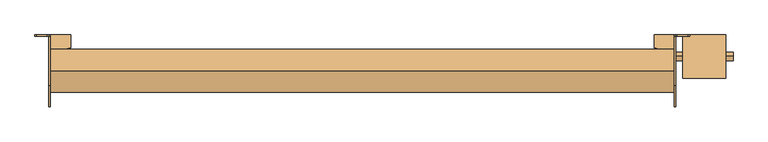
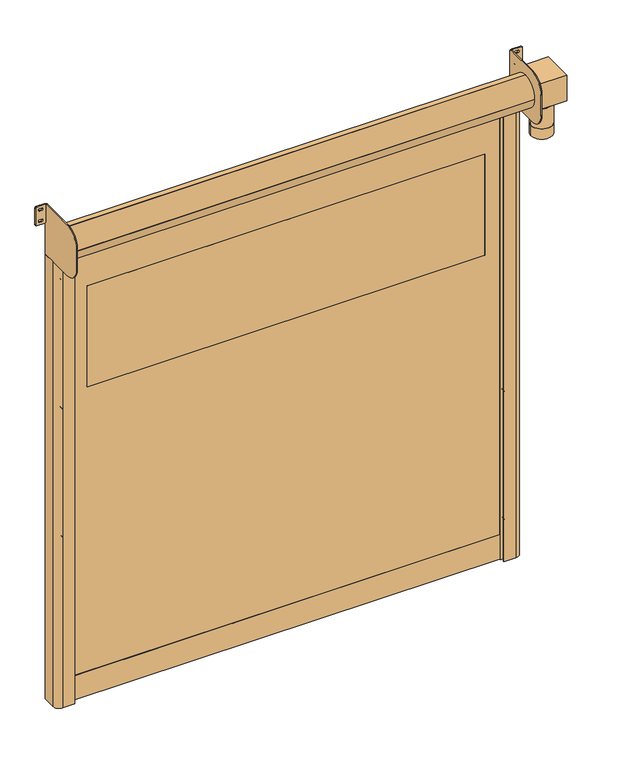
"""IFC4 building model written with IfcOpenShell, lengths in millimetres: door geometry, DO_WPB_Dynamicroll_BMP : Dynamicroll One."""

from ifc_helpers import new_model, si_unit, point, frame, frame_2d, origin, origin_with_axes, place, context, project, spatial, polyline, circle_curve, trimmed, segment, composite_curve, outline, extrude, source, transform, mapped, element, save
from ifc_brep_helpers import plane_surface, cylinder_surface, advanced_brep


def door_59a10860(model_context):
    return source(origin(), model_context, "Body", "SolidModel", [
        extrude(outline(composite_curve([segment(trimmed(circle_curve(frame_2d((1416.6666667, 1024.0)), 6.0), [point((1422.6666667, 1024.0))], [point((1410.6666667, 1024.0))], False, "CARTESIAN"), True, "CONTINUOUS"), segment(polyline([(1410.6666667, 1024.0), (1410.6666667, 1042.0)]), True, "CONTINUOUS"), segment(trimmed(circle_curve(frame_2d((1416.6666667, 1042.0)), 6.0), [point((1410.6666667, 1042.0))], [point((1422.6666667, 1042.0))], False, "CARTESIAN"), True, "CONTINUOUS"), segment(polyline([(1422.6666667, 1042.0), (1422.6666667, 1024.0)]), True, "CONTINUOUS")], self_intersect=False)), frame((0.0, -20.0, 0.0), z_axis=(0.0, 1.0, 0.0), x_axis=(0.0, 0.0, 1.0)), (0.0, 0.0, 1.0), 20.0),
        extrude(outline(composite_curve([segment(trimmed(circle_curve(frame_2d((783.3333333, 1024.0)), 6.0), [point((789.3333333, 1024.0))], [point((777.3333333, 1024.0))], False, "CARTESIAN"), True, "CONTINUOUS"), segment(polyline([(777.3333333, 1024.0), (777.3333333, 1042.0)]), True, "CONTINUOUS"), segment(trimmed(circle_curve(frame_2d((783.3333333, 1042.0)), 6.0), [point((777.3333333, 1042.0))], [point((789.3333333, 1042.0))], False, "CARTESIAN"), True, "CONTINUOUS"), segment(polyline([(789.3333333, 1042.0), (789.3333333, 1024.0)]), True, "CONTINUOUS")], self_intersect=False)), frame((0.0, -20.0, 0.0), z_axis=(0.0, 1.0, 0.0), x_axis=(0.0, 0.0, 1.0)), (0.0, 0.0, 1.0), 20.0),
        extrude(outline(composite_curve([segment(trimmed(circle_curve(frame_2d((2050.0, 1024.0)), 6.0), [point((2056.0, 1024.0))], [point((2044.0, 1024.0))], False, "CARTESIAN"), True, "CONTINUOUS"), segment(polyline([(2044.0, 1024.0), (2044.0, 1042.0)]), True, "CONTINUOUS"), segment(trimmed(circle_curve(frame_2d((2050.0, 1042.0)), 6.0), [point((2044.0, 1042.0))], [point((2056.0, 1042.0))], False, "CARTESIAN"), True, "CONTINUOUS"), segment(polyline([(2056.0, 1042.0), (2056.0, 1024.0)]), True, "CONTINUOUS")], self_intersect=False)), frame((0.0, -20.0, 0.0), z_axis=(0.0, 1.0, 0.0), x_axis=(0.0, 0.0, 1.0)), (0.0, 0.0, 1.0), 20.0),
        extrude(outline(composite_curve([segment(trimmed(circle_curve(frame_2d((150.0, 1024.0)), 6.0), [point((156.0, 1024.0))], [point((144.0, 1024.0))], False, "CARTESIAN"), True, "CONTINUOUS"), segment(polyline([(144.0, 1024.0), (144.0, 1042.0)]), True, "CONTINUOUS"), segment(trimmed(circle_curve(frame_2d((150.0, 1042.0)), 6.0), [point((144.0, 1042.0))], [point((156.0, 1042.0))], False, "CARTESIAN"), True, "CONTINUOUS"), segment(polyline([(156.0, 1042.0), (156.0, 1024.0)]), True, "CONTINUOUS")], self_intersect=False)), frame((0.0, -20.0, 0.0), z_axis=(0.0, 1.0, 0.0), x_axis=(0.0, 0.0, 1.0)), (0.0, 0.0, 1.0), 20.0),
        extrude(outline(composite_curve([segment(polyline([(1422.6666667, -1024.0), (1422.6666667, -1042.0)]), True, "CONTINUOUS"), segment(trimmed(circle_curve(frame_2d((1416.6666667, -1042.0)), 6.0), [point((1422.6666667, -1042.0))], [point((1410.6666667, -1042.0))], False, "CARTESIAN"), True, "CONTINUOUS"), segment(polyline([(1410.6666667, -1042.0), (1410.6666667, -1024.0)]), True, "CONTINUOUS"), segment(trimmed(circle_curve(frame_2d((1416.6666667, -1024.0)), 6.0), [point((1410.6666667, -1024.0))], [point((1422.6666667, -1024.0))], False, "CARTESIAN"), True, "CONTINUOUS")], self_intersect=False)), frame((0.0, -20.0, 0.0), z_axis=(0.0, 1.0, 0.0), x_axis=(0.0, 0.0, 1.0)), (0.0, 0.0, 1.0), 20.0),
        extrude(outline(composite_curve([segment(polyline([(789.3333333, -1024.0), (789.3333333, -1042.0)]), True, "CONTINUOUS"), segment(trimmed(circle_curve(frame_2d((783.3333333, -1042.0)), 6.0), [point((789.3333333, -1042.0))], [point((777.3333333, -1042.0))], False, "CARTESIAN"), True, "CONTINUOUS"), segment(polyline([(777.3333333, -1042.0), (777.3333333, -1024.0)]), True, "CONTINUOUS"), segment(trimmed(circle_curve(frame_2d((783.3333333, -1024.0)), 6.0), [point((777.3333333, -1024.0))], [point((789.3333333, -1024.0))], False, "CARTESIAN"), True, "CONTINUOUS")], self_intersect=False)), frame((0.0, -20.0, 0.0), z_axis=(0.0, 1.0, 0.0), x_axis=(0.0, 0.0, 1.0)), (0.0, 0.0, 1.0), 20.0),
        extrude(outline(composite_curve([segment(polyline([(2056.0, -1024.0), (2056.0, -1042.0)]), True, "CONTINUOUS"), segment(trimmed(circle_curve(frame_2d((2050.0, -1042.0)), 6.0), [point((2056.0, -1042.0))], [point((2044.0, -1042.0))], False, "CARTESIAN"), True, "CONTINUOUS"), segment(polyline([(2044.0, -1042.0), (2044.0, -1024.0)]), True, "CONTINUOUS"), segment(trimmed(circle_curve(frame_2d((2050.0, -1024.0)), 6.0), [point((2044.0, -1024.0))], [point((2056.0, -1024.0))], False, "CARTESIAN"), True, "CONTINUOUS")], self_intersect=False)), frame((0.0, -20.0, 0.0), z_axis=(0.0, 1.0, 0.0), x_axis=(0.0, 0.0, 1.0)), (0.0, 0.0, 1.0), 20.0),
        extrude(outline(composite_curve([segment(polyline([(156.0, -1024.0), (156.0, -1042.0)]), True, "CONTINUOUS"), segment(trimmed(circle_curve(frame_2d((150.0, -1042.0)), 6.0), [point((156.0, -1042.0))], [point((144.0, -1042.0))], False, "CARTESIAN"), True, "CONTINUOUS"), segment(polyline([(144.0, -1042.0), (144.0, -1024.0)]), True, "CONTINUOUS"), segment(trimmed(circle_curve(frame_2d((150.0, -1024.0)), 6.0), [point((144.0, -1024.0))], [point((156.0, -1024.0))], False, "CARTESIAN"), True, "CONTINUOUS")], self_intersect=False)), frame((0.0, -20.0, 0.0), z_axis=(0.0, 1.0, 0.0), x_axis=(0.0, 0.0, 1.0)), (0.0, 0.0, 1.0), 20.0),
        extrude(outline(composite_curve([segment(trimmed(circle_curve(frame_2d((1526.0, 929.0)), 1.0), [point((1525.0, 929.0))], [point((1526.0, 930.0))], False, "CARTESIAN"), True, "CONTINUOUS"), segment(polyline([(1526.0, 930.0), (2024.0, 930.0)]), True, "CONTINUOUS"), segment(trimmed(circle_curve(frame_2d((2024.0, 929.0)), 1.0), [point((2024.0, 930.0))], [point((2025.0, 929.0))], False, "CARTESIAN"), True, "CONTINUOUS"), segment(polyline([(2025.0, 929.0), (2025.0, -929.0)]), True, "CONTINUOUS"), segment(trimmed(circle_curve(frame_2d((2024.0, -929.0)), 1.0), [point((2025.0, -929.0))], [point((2024.0, -930.0))], False, "CARTESIAN"), True, "CONTINUOUS"), segment(polyline([(2024.0, -930.0), (1526.0, -930.0)]), True, "CONTINUOUS"), segment(trimmed(circle_curve(frame_2d((1526.0, -929.0)), 1.0), [point((1526.0, -930.0))], [point((1525.0, -929.0))], False, "CARTESIAN"), True, "CONTINUOUS"), segment(polyline([(1525.0, -929.0), (1525.0, 929.0)]), True, "CONTINUOUS")], self_intersect=False)), frame((0.0, -63.5, 0.0), z_axis=(0.0, 1.0, 0.0), x_axis=(0.0, 0.0, 1.0)), (0.0, 0.0, 1.0), 7.0),
        extrude(outline(polyline([(120.0, -1012.0), (120.0, 1012.0), (2325.0, 1012.0), (2325.0, -1012.0), (120.0, -1012.0)]), holes=[composite_curve([segment(trimmed(circle_curve(frame_2d((1526.0, 929.0)), 1.0), [point((1526.0, 930.0))], [point((1525.0, 929.0))], True, "CARTESIAN"), True, "CONTINUOUS"), segment(polyline([(1525.0, 929.0), (1525.0, -929.0)]), True, "CONTINUOUS"), segment(trimmed(circle_curve(frame_2d((1526.0, -929.0)), 1.0), [point((1525.0, -929.0))], [point((1526.0, -930.0))], True, "CARTESIAN"), True, "CONTINUOUS"), segment(polyline([(1526.0, -930.0), (2024.0, -930.0)]), True, "CONTINUOUS"), segment(trimmed(circle_curve(frame_2d((2024.0, -929.0)), 1.0), [point((2024.0, -930.0))], [point((2025.0, -929.0))], True, "CARTESIAN"), True, "CONTINUOUS"), segment(polyline([(2025.0, -929.0), (2025.0, 929.0)]), True, "CONTINUOUS"), segment(trimmed(circle_curve(frame_2d((2024.0, 929.0)), 1.0), [point((2025.0, 929.0))], [point((2024.0, 930.0))], True, "CARTESIAN"), True, "CONTINUOUS"), segment(polyline([(2024.0, 930.0), (1526.0, 930.0)]), True, "CONTINUOUS")], self_intersect=False)]), frame((0.0, -63.5, 0.0), z_axis=(0.0, 1.0, 0.0), x_axis=(0.0, 0.0, 1.0)), (0.0, 0.0, 1.0), 7.0),
        extrude(outline(polyline([(-1012.0, -54.5), (1012.0, -54.5), (1012.0, -65.5), (-1012.0, -65.5), (-1012.0, -54.5)])), origin_with_axes(), (0.0, 0.0, 1.0), 120.0),
        extrude(outline(composite_curve([segment(polyline([(-1090.0, 0.0), (-1015.0, 0.0), (-1015.0, -44.2857143), (-1035.0, -50.0), (-1000.0, -50.0), (-1000.0, -56.5), (-1020.0, -56.5), (-1020.0, -63.5), (-1000.0, -63.5), (-1000.0, -70.0), (-1035.0, -70.0), (-1035.0, -85.0), (-1005.0, -85.0), (-1005.0, -90.0), (-1060.0, -90.0)]), True, "CONTINUOUS"), segment(trimmed(circle_curve(frame_2d((-1060.0, -60.0)), 30.0), [point((-1060.0, -90.0))], [point((-1090.0, -60.0))], False, "CARTESIAN"), True, "CONTINUOUS"), segment(polyline([(-1090.0, -60.0), (-1090.0, 0.0)]), True, "CONTINUOUS")], self_intersect=False)), origin_with_axes(), (0.0, 0.0, 1.0), 2200.0),
        extrude(outline(composite_curve([segment(polyline([(1090.0, 0.0), (1090.0, -60.0)]), True, "CONTINUOUS"), segment(trimmed(circle_curve(frame_2d((1060.0, -60.0)), 30.0), [point((1090.0, -60.0))], [point((1060.0, -90.0))], False, "CARTESIAN"), True, "CONTINUOUS"), segment(polyline([(1060.0, -90.0), (1005.0, -90.0), (1005.0, -85.0), (1035.0, -85.0), (1035.0, -70.0), (1000.0, -70.0), (1000.0, -63.5), (1020.0, -63.5), (1020.0, -56.5), (1000.0, -56.5), (1000.0, -50.0), (1035.0, -50.0), (1015.0, -44.2857143), (1015.0, 0.0), (1090.0, 0.0)]), True, "CONTINUOUS")], self_intersect=False)), origin_with_axes(), (0.0, 0.0, 1.0), 2200.0),
        extrude(outline(composite_curve([segment(trimmed(circle_curve(frame_2d((1190.0, -75.0)), 50.0), [point((1240.0, -75.0))], [point((1140.0, -75.0))], False, "CARTESIAN"), True, "CONTINUOUS"), segment(trimmed(circle_curve(frame_2d((1190.0, -75.0)), 50.0), [point((1140.0, -75.0))], [point((1240.0, -75.0))], False, "CARTESIAN"), True, "CONTINUOUS")], self_intersect=False)), frame((0.0, 0.0, 2050.0), z_axis=(0.0, 0.0, 1.0), x_axis=(1.0, 0.0, 0.0)), (0.0, 0.0, 1.0), 50.0),
        extrude(outline(composite_curve([segment(trimmed(circle_curve(frame_2d((1190.0, -75.0)), 50.0), [point((1240.0, -75.0))], [point((1140.0, -75.0))], False, "CARTESIAN"), True, "CONTINUOUS"), segment(trimmed(circle_curve(frame_2d((1190.0, -75.0)), 50.0), [point((1140.0, -75.0))], [point((1240.0, -75.0))], False, "CARTESIAN"), True, "CONTINUOUS")], self_intersect=False)), frame((0.0, 0.0, 2100.0), z_axis=(0.0, 0.0, 1.0), x_axis=(1.0, 0.0, 0.0)), (0.0, 0.0, 1.0), 100.0),
        extrude(outline(composite_curve([segment(trimmed(circle_curve(frame_2d((1190.0, -75.0)), 37.5), [point((1227.5, -75.0))], [point((1152.5, -75.0))], False, "CARTESIAN"), True, "CONTINUOUS"), segment(trimmed(circle_curve(frame_2d((1190.0, -75.0)), 37.5), [point((1152.5, -75.0))], [point((1227.5, -75.0))], False, "CARTESIAN"), True, "CONTINUOUS")], self_intersect=False)), frame((0.0, 0.0, 2200.0), z_axis=(0.0, 0.0, 1.0), x_axis=(1.0, 0.0, 0.0)), (0.0, 0.0, 1.0), 25.0),
        extrude(outline(composite_curve([segment(trimmed(circle_curve(frame_2d((2363.75, -1133.25)), 5.75), [point((2363.75, -1139.0))], [point((2358.0, -1133.25))], False, "CARTESIAN"), True, "CONTINUOUS"), segment(polyline([(2358.0, -1133.25), (2358.0, -1095.75)]), True, "CONTINUOUS"), segment(trimmed(circle_curve(frame_2d((2363.75, -1095.75)), 5.75), [point((2358.0, -1095.75))], [point((2363.75, -1090.0))], False, "CARTESIAN"), True, "CONTINUOUS"), segment(polyline([(2363.75, -1090.0), (2444.25, -1090.0)]), True, "CONTINUOUS"), segment(trimmed(circle_curve(frame_2d((2444.25, -1095.75)), 5.75), [point((2444.25, -1090.0))], [point((2450.0, -1095.75))], False, "CARTESIAN"), True, "CONTINUOUS"), segment(polyline([(2450.0, -1095.75), (2450.0, -1133.25)]), True, "CONTINUOUS"), segment(trimmed(circle_curve(frame_2d((2444.25, -1133.25)), 5.75), [point((2450.0, -1133.25))], [point((2444.25, -1139.0))], False, "CARTESIAN"), True, "CONTINUOUS"), segment(polyline([(2444.25, -1139.0), (2363.75, -1139.0)]), True, "CONTINUOUS")], self_intersect=False), holes=[composite_curve([segment(trimmed(circle_curve(frame_2d((2431.5, -1110.25)), 5.75), [point((2437.25, -1110.25))], [point((2425.75, -1110.25))], True, "CARTESIAN"), True, "CONTINUOUS"), segment(polyline([(2425.75, -1110.25), (2425.75, -1118.75)]), True, "CONTINUOUS"), segment(trimmed(circle_curve(frame_2d((2431.5, -1118.75)), 5.75), [point((2425.75, -1118.75))], [point((2437.25, -1118.75))], True, "CARTESIAN"), True, "CONTINUOUS"), segment(polyline([(2437.25, -1118.75), (2437.25, -1110.25)]), True, "CONTINUOUS")], self_intersect=False), composite_curve([segment(trimmed(circle_curve(frame_2d((2376.5, -1110.25)), 5.75), [point((2382.25, -1110.25))], [point((2370.75, -1110.25))], True, "CARTESIAN"), True, "CONTINUOUS"), segment(polyline([(2370.75, -1110.25), (2370.75, -1118.75)]), True, "CONTINUOUS"), segment(trimmed(circle_curve(frame_2d((2376.5, -1118.75)), 5.75), [point((2370.75, -1118.75))], [point((2382.25, -1118.75))], True, "CARTESIAN"), True, "CONTINUOUS"), segment(polyline([(2382.25, -1118.75), (2382.25, -1110.25)]), True, "CONTINUOUS")], self_intersect=False)]), frame((0.0, -5.0, 0.0), z_axis=(0.0, 1.0, 0.0), x_axis=(0.0, 0.0, 1.0)), (0.0, 0.0, 1.0), 5.0),
        extrude(outline(composite_curve([segment(trimmed(circle_curve(frame_2d((2363.75, 1095.75)), 5.75), [point((2363.75, 1090.0))], [point((2358.0, 1095.75))], False, "CARTESIAN"), True, "CONTINUOUS"), segment(polyline([(2358.0, 1095.75), (2358.0, 1133.25)]), True, "CONTINUOUS"), segment(trimmed(circle_curve(frame_2d((2363.75, 1133.25)), 5.75), [point((2358.0, 1133.25))], [point((2363.75, 1139.0))], False, "CARTESIAN"), True, "CONTINUOUS"), segment(polyline([(2363.75, 1139.0), (2444.25, 1139.0)]), True, "CONTINUOUS"), segment(trimmed(circle_curve(frame_2d((2444.25, 1133.25)), 5.75), [point((2444.25, 1139.0))], [point((2450.0, 1133.25))], False, "CARTESIAN"), True, "CONTINUOUS"), segment(polyline([(2450.0, 1133.25), (2450.0, 1095.75)]), True, "CONTINUOUS"), segment(trimmed(circle_curve(frame_2d((2444.25, 1095.75)), 5.75), [point((2450.0, 1095.75))], [point((2444.25, 1090.0))], False, "CARTESIAN"), True, "CONTINUOUS"), segment(polyline([(2444.25, 1090.0), (2363.75, 1090.0)]), True, "CONTINUOUS")], self_intersect=False), holes=[composite_curve([segment(trimmed(circle_curve(frame_2d((2431.5, 1118.75)), 5.75), [point((2437.25, 1118.75))], [point((2425.75, 1118.75))], True, "CARTESIAN"), True, "CONTINUOUS"), segment(polyline([(2425.75, 1118.75), (2425.75, 1110.25)]), True, "CONTINUOUS"), segment(trimmed(circle_curve(frame_2d((2431.5, 1110.25)), 5.75), [point((2425.75, 1110.25))], [point((2437.25, 1110.25))], True, "CARTESIAN"), True, "CONTINUOUS"), segment(polyline([(2437.25, 1110.25), (2437.25, 1118.75)]), True, "CONTINUOUS")], self_intersect=False), composite_curve([segment(trimmed(circle_curve(frame_2d((2376.5, 1118.75)), 5.75), [point((2382.25, 1118.75))], [point((2370.75, 1118.75))], True, "CARTESIAN"), True, "CONTINUOUS"), segment(polyline([(2370.75, 1118.75), (2370.75, 1110.25)]), True, "CONTINUOUS"), segment(trimmed(circle_curve(frame_2d((2376.5, 1110.25)), 5.75), [point((2370.75, 1110.25))], [point((2382.25, 1110.25))], True, "CARTESIAN"), True, "CONTINUOUS"), segment(polyline([(2382.25, 1110.25), (2382.25, 1118.75)]), True, "CONTINUOUS")], self_intersect=False)]), frame((0.0, -5.0, 0.0), z_axis=(0.0, 1.0, 0.0), x_axis=(0.0, 0.0, 1.0)), (0.0, 0.0, 1.0), 5.0),
        extrude(outline(composite_curve([segment(trimmed(circle_curve(frame_2d((-5.0, 2205.0)), 5.0), [point((0.0, 2205.0))], [point((-5.0, 2200.0))], False, "CARTESIAN"), True, "CONTINUOUS"), segment(polyline([(-5.0, 2200.0), (-175.0, 2200.0)]), True, "CONTINUOUS"), segment(trimmed(circle_curve(frame_2d((-175.0, 2275.0)), 75.0), [point((-175.0, 2200.0))], [point((-250.0, 2275.0))], False, "CARTESIAN"), True, "CONTINUOUS"), segment(polyline([(-250.0, 2275.0), (-250.0, 2375.0)]), True, "CONTINUOUS"), segment(trimmed(circle_curve(frame_2d((-175.0, 2375.0)), 75.0), [point((-250.0, 2375.0))], [point((-175.0, 2450.0))], False, "CARTESIAN"), True, "CONTINUOUS"), segment(polyline([(-175.0, 2450.0), (-5.0, 2450.0)]), True, "CONTINUOUS"), segment(trimmed(circle_curve(frame_2d((-5.0, 2445.0)), 5.0), [point((-5.0, 2450.0))], [point((0.0, 2445.0))], False, "CARTESIAN"), True, "CONTINUOUS"), segment(polyline([(0.0, 2445.0), (0.0, 2205.0)]), True, "CONTINUOUS")], self_intersect=False)), frame((-1090.0, 0.0, 0.0), z_axis=(1.0, 0.0, 0.0), x_axis=(0.0, 1.0, 0.0)), (0.0, 0.0, 1.0), 5.0),
        extrude(outline(composite_curve([segment(trimmed(circle_curve(frame_2d((-124.0, 2324.0)), 74.0), [point((-50.0, 2324.0))], [point((-124.0, 2250.0))], False, "CARTESIAN"), True, "CONTINUOUS"), segment(polyline([(-124.0, 2250.0), (-126.0, 2250.0)]), True, "CONTINUOUS"), segment(trimmed(circle_curve(frame_2d((-126.0, 2324.0)), 74.0), [point((-126.0, 2250.0))], [point((-200.0, 2324.0))], False, "CARTESIAN"), True, "CONTINUOUS"), segment(polyline([(-200.0, 2324.0), (-200.0, 2326.0)]), True, "CONTINUOUS"), segment(trimmed(circle_curve(frame_2d((-126.0, 2326.0)), 74.0), [point((-200.0, 2326.0))], [point((-126.0, 2400.0))], False, "CARTESIAN"), True, "CONTINUOUS"), segment(polyline([(-126.0, 2400.0), (-124.0, 2400.0)]), True, "CONTINUOUS"), segment(trimmed(circle_curve(frame_2d((-124.0, 2326.0)), 74.0), [point((-124.0, 2400.0))], [point((-50.0, 2326.0))], False, "CARTESIAN"), True, "CONTINUOUS"), segment(polyline([(-50.0, 2326.0), (-50.0, 2324.0)]), True, "CONTINUOUS")], self_intersect=False)), frame((-1085.0, 0.0, 0.0), z_axis=(1.0, 0.0, 0.0), x_axis=(0.0, 1.0, 0.0)), (0.0, 0.0, 1.0), 2170.0),
        extrude(outline(composite_curve([segment(trimmed(circle_curve(frame_2d((-5.0, 2205.0)), 5.0), [point((0.0, 2205.0))], [point((-5.0, 2200.0))], False, "CARTESIAN"), True, "CONTINUOUS"), segment(polyline([(-5.0, 2200.0), (-175.0, 2200.0)]), True, "CONTINUOUS"), segment(trimmed(circle_curve(frame_2d((-175.0, 2275.0)), 75.0), [point((-175.0, 2200.0))], [point((-250.0, 2275.0))], False, "CARTESIAN"), True, "CONTINUOUS"), segment(polyline([(-250.0, 2275.0), (-250.0, 2375.0)]), True, "CONTINUOUS"), segment(trimmed(circle_curve(frame_2d((-175.0, 2375.0)), 75.0), [point((-250.0, 2375.0))], [point((-175.0, 2450.0))], False, "CARTESIAN"), True, "CONTINUOUS"), segment(polyline([(-175.0, 2450.0), (-5.0, 2450.0)]), True, "CONTINUOUS"), segment(trimmed(circle_curve(frame_2d((-5.0, 2445.0)), 5.0), [point((-5.0, 2450.0))], [point((0.0, 2445.0))], False, "CARTESIAN"), True, "CONTINUOUS"), segment(polyline([(0.0, 2445.0), (0.0, 2205.0)]), True, "CONTINUOUS")], self_intersect=False)), frame((1085.0, 0.0, 0.0), z_axis=(1.0, 0.0, 0.0), x_axis=(0.0, 1.0, 0.0)), (0.0, 0.0, 1.0), 5.0),
        advanced_brep(
        [(1115.0, -150.0, 2350.0), (1265.0, -150.0, 2350.0), (1265.0, 0.0, 2350.0), (1115.0, 0.0, 2350.0), (1115.0, -150.0, 2225.0), (1265.0, -150.0, 2225.0), (1265.0, 0.0, 2225.0), (1265.0, -75.0, 2272.5), (1265.0, -75.0, 2302.5), (1115.0, 0.0, 2225.0), (1115.0, -75.0, 2302.5), (1115.0, -75.0, 2272.5), (1090.0, -75.0, 2272.5), (1090.0, -75.0, 2302.5), (1290.0, -75.0, 2272.5), (1290.0, -75.0, 2302.5)],
        [
            (0, 1),
            (1, 2),
            (2, 3),
            (3, 0),
            (4, 5),
            (5, 1),
            (0, 4),
            (5, 6),
            (6, 2),
            (7, 8, circle_curve(frame((1265.0, -75.0, 2287.5), z_axis=(-1.0, 0.0, 0.0), x_axis=(0.0, 0.0, 1.0)), 15.0)),
            (8, 7, circle_curve(frame((1265.0, -75.0, 2287.5), z_axis=(-1.0, 0.0, 0.0), x_axis=(0.0, 0.0, 1.0)), 15.0)),
            (6, 9),
            (9, 3),
            (9, 4),
            (10, 11, circle_curve(frame((1115.0, -75.0, 2287.5), z_axis=(1.0, 0.0, 0.0), x_axis=(0.0, 0.0, 1.0)), 15.0)),
            (11, 10, circle_curve(frame((1115.0, -75.0, 2287.5), z_axis=(1.0, 0.0, 0.0), x_axis=(0.0, 0.0, 1.0)), 15.0)),
            (12, 13, circle_curve(frame((1090.0, -75.0, 2287.5), z_axis=(-1.0, 0.0, 0.0), x_axis=(0.0, 0.0, 1.0)), 15.0)),
            (13, 12, circle_curve(frame((1090.0, -75.0, 2287.5), z_axis=(-1.0, 0.0, 0.0), x_axis=(0.0, 0.0, 1.0)), 15.0)),
            (12, 11),
            (10, 13),
            (14, 15, circle_curve(frame((1290.0, -75.0, 2287.5), z_axis=(-1.0, 0.0, 0.0), x_axis=(0.0, 0.0, 1.0)), 15.0)),
            (15, 8),
            (7, 14),
            (15, 14, circle_curve(frame((1290.0, -75.0, 2287.5), z_axis=(-1.0, 0.0, 0.0), x_axis=(0.0, 0.0, 1.0)), 15.0)),
        ],
        [
            plane_surface(frame((1190.0, 0.0, 2350.0), z_axis=(0.0, 0.0, 1.0), x_axis=(0.0, -1.0, 0.0))),
            plane_surface(frame((1265.0, -150.0, 2225.0), z_axis=(0.0, -1.0, 0.0), x_axis=(0.0, 0.0, 1.0))),
            plane_surface(frame((1265.0, 0.0, 2225.0), z_axis=(1.0, 0.0, 0.0), x_axis=(0.0, 0.0, 1.0))),
            plane_surface(frame((1115.0, 0.0, 2225.0), z_axis=(0.0, 1.0, 0.0), x_axis=(0.0, 0.0, 1.0))),
            plane_surface(frame((1115.0, -150.0, 2225.0), z_axis=(-1.0, 0.0, 0.0), x_axis=(0.0, 0.0, 1.0))),
            plane_surface(frame((1190.0, 0.0, 2225.0), z_axis=(0.0, 0.0, -1.0), x_axis=(0.0, -1.0, 0.0))),
            plane_surface(frame((1090.0, 0.0, 2287.5), z_axis=(-1.0, 0.0, 0.0), x_axis=(0.0, -1.0, 0.0))),
            cylinder_surface(frame((1090.0, -75.0, 2287.5), z_axis=(-1.0, 0.0, 0.0), x_axis=(0.0, 0.0, 1.0)), 15.0),
            plane_surface(frame((1290.0, 0.0, 2287.5), z_axis=(1.0, 0.0, 0.0), x_axis=(0.0, -1.0, 0.0))),
        ],
        [
            (0, [[1, 2, 3, 4]]),
            (1, [[5, 6, -1, 7]]),
            (2, [[8, 9, -2, -6], [10, 11]]),
            (3, [[12, 13, -3, -9]]),
            (4, [[14, -7, -4, -13], [15, 16]]),
            (5, [[-14, -12, -8, -5]]),
            (6, [[17, 18]]),
            (7, [[-17, 19, -15, 20]]),
            (7, [[21, 22, -10, 23]]),
            (7, [[-18, -20, -16, -19]]),
            (7, [[24, -23, -11, -22]]),
            (8, [[-24, -21]]),
        ],
    ),
    ])


if __name__ == "__main__":
    model = new_model("IFC4")
    model_context = context("Model", 3, world=origin())
    ifc_project = project(units=[si_unit("LENGTHUNIT", "METRE", prefix="MILLI")], contexts=[model_context])
    site = spatial("IfcSite", under=ifc_project)
    building = spatial("IfcBuilding", under=site)
    placement = place(None, origin())
    door_shape = door_59a10860(model_context)
    element("IfcDoor", 1, ObjectType="DO_WPB_Dynamicroll_BMP : Dynamicroll One", at=placement, inside=building, context=model_context, shape_type="MappedRepresentation", body=[
        mapped(door_shape, transform((0.0, 0.0, 0.0), x_axis=(1.0, 0.0, 0.0), y_axis=(0.0, 1.0, 0.0), z_axis=(0.0, 0.0, 1.0))),
    ])
    save(model, "model.ifc")
